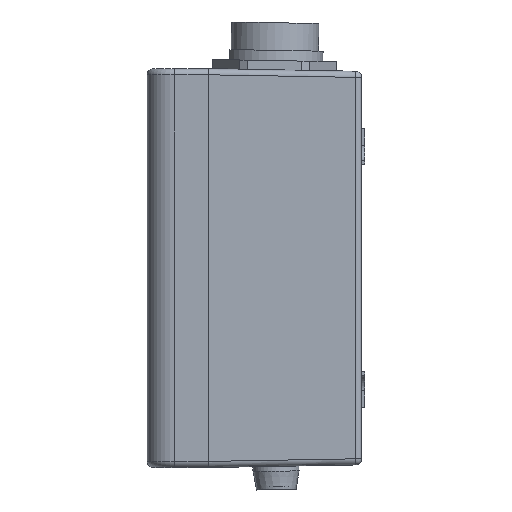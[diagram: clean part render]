
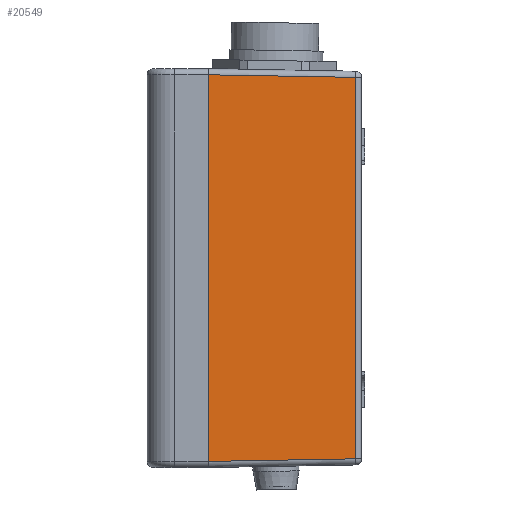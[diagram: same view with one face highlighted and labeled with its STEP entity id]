
A CAD part, left-side view. The second image highlights one B-rep face of the part: STEP entity #20549.
In plain terms, the highlighted planar face has unit normal (-1, -0.018, 0).
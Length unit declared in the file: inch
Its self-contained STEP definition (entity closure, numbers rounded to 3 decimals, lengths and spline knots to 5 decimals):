
#410 = LINE ( 'NONE', #44347, #47445 ) ;
#1135 = LINE ( 'NONE', #6624, #20900 ) ;
#1736 = DIRECTION ( 'NONE',  ( -0.017, 1., 0.017 ) ) ;
#1738 = EDGE_CURVE ( 'NONE', #31177, #44045, #21902, .T. ) ;
#3579 = DIRECTION ( 'NONE',  ( 0., 0., 1. ) ) ;
#5100 = CARTESIAN_POINT ( 'NONE',  ( -3.11749, 0.07737, 2.44821 ) ) ;
#5883 = CARTESIAN_POINT ( 'NONE',  ( -3.11614, 0., -2.52559 ) ) ;
#6624 = CARTESIAN_POINT ( 'NONE',  ( -3.1505, 1.9685, -2.52559 ) ) ;
#8595 = EDGE_CURVE ( 'NONE', #31177, #45769, #1135, .T. ) ;
#9589 = DIRECTION ( 'NONE',  ( 0.017, -1., 0. ) ) ;
#9691 = VECTOR ( 'NONE', #30313, 39.37008 ) ;
#11575 = VECTOR ( 'NONE', #1736, 39.37008 ) ;
#15548 = EDGE_LOOP ( 'NONE', ( #44539, #36879, #21190, #25862 ) ) ;
#19673 = CARTESIAN_POINT ( 'NONE',  ( -3.11749, 0.07737, -2.44821 ) ) ;
#20549 = ADVANCED_FACE ( 'NONE', ( #32588 ), #35457, .T. ) ;
#20900 = VECTOR ( 'NONE', #35884, 39.37008 ) ;
#20973 = EDGE_CURVE ( 'NONE', #33656, #45769, #47076, .T. ) ;
#21190 = ORIENTED_EDGE ( 'NONE', *, *, #42338, .T. ) ;
#21902 = LINE ( 'NONE', #26567, #9691 ) ;
#23812 = CARTESIAN_POINT ( 'NONE',  ( -3.1505, 1.9685, 2.48122 ) ) ;
#25862 = ORIENTED_EDGE ( 'NONE', *, *, #20973, .T. ) ;
#26567 = CARTESIAN_POINT ( 'NONE',  ( -3.11617, 0.00137, -2.44689 ) ) ;
#29859 = AXIS2_PLACEMENT_3D ( 'NONE', #5883, #31840, #9589 ) ;
#30313 = DIRECTION ( 'NONE',  ( 0.017, -1., 0.017 ) ) ;
#31177 = VERTEX_POINT ( 'NONE', #33247 ) ;
#31840 = DIRECTION ( 'NONE',  ( -1., -0.017, 0. ) ) ;
#32588 = FACE_OUTER_BOUND ( 'NONE', #15548, .T. ) ;
#33247 = CARTESIAN_POINT ( 'NONE',  ( -3.1505, 1.9685, -2.48122 ) ) ;
#33656 = VERTEX_POINT ( 'NONE', #5100 ) ;
#35457 = PLANE ( 'NONE',  #29859 ) ;
#35884 = DIRECTION ( 'NONE',  ( 0., 0., 1. ) ) ;
#36879 = ORIENTED_EDGE ( 'NONE', *, *, #1738, .T. ) ;
#42338 = EDGE_CURVE ( 'NONE', #44045, #33656, #410, .T. ) ;
#44045 = VERTEX_POINT ( 'NONE', #19673 ) ;
#44347 = CARTESIAN_POINT ( 'NONE',  ( -3.11749, 0.07737, -2.52559 ) ) ;
#44539 = ORIENTED_EDGE ( 'NONE', *, *, #8595, .F. ) ;
#45769 = VERTEX_POINT ( 'NONE', #23812 ) ;
#46240 = CARTESIAN_POINT ( 'NONE',  ( -3.11463, -0.08674, 2.44535 ) ) ;
#47076 = LINE ( 'NONE', #46240, #11575 ) ;
#47445 = VECTOR ( 'NONE', #3579, 39.37008 ) ;
